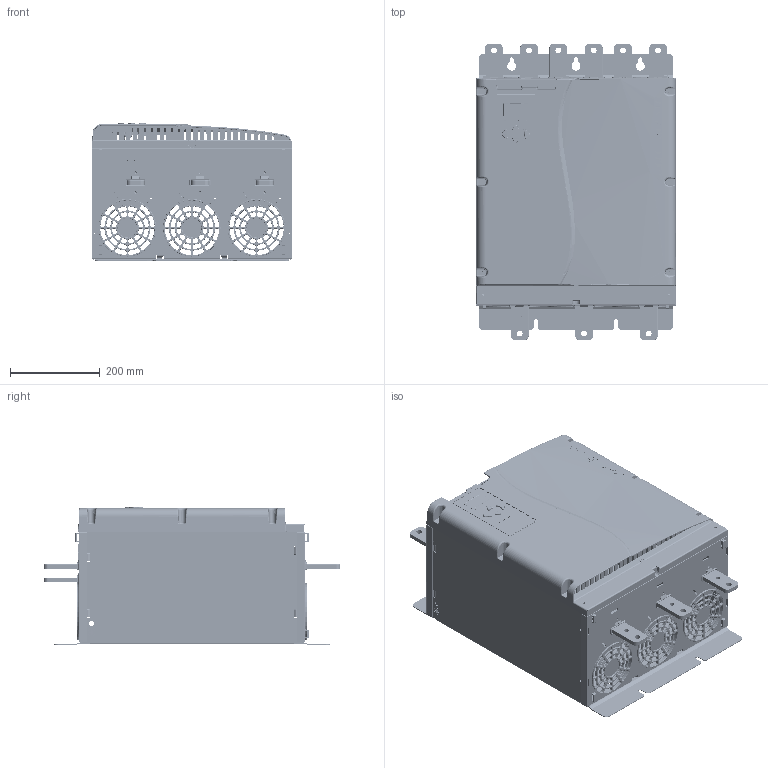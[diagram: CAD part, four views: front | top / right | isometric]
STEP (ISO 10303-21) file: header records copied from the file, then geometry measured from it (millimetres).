
FILE_DESCRIPTION (( 'STEP AP214' ), '1' );
FILE_NAME ('780-22599-00A.STEP', '2020-10-13T23:48:09', ( '' ), ( '' ), 'SwSTEP 2.0', 'SolidWorks 2019', '' );
FILE_SCHEMA (( 'AUTOMOTIVE_DESIGN' ));
Length unit declared in the file: millimetre
Products named in the file (1): 780-22599-00A
Bounding box: 447.06 x 662 x 309.73 mm (x, y, z)
Surface area: 2913562.7 mm2 (no closed solid volume)
Topology: 0 solids, 19 shells, 21860 faces, 55089 edges, 33578 vertices
Faces by surface type: plane 6789, bspline 4685, cylinder 4185, cone 3558, torus 2214, sphere 429
Entity records: 1097343 total; most frequent: CARTESIAN_POINT 368976, ORIENTED_EDGE 109527, DIRECTION 91479, EDGE_CURVE 54777, VERTEX_POINT 33578, AXIS2_PLACEMENT_3D 33097, LINE 25285, VECTOR 25285
